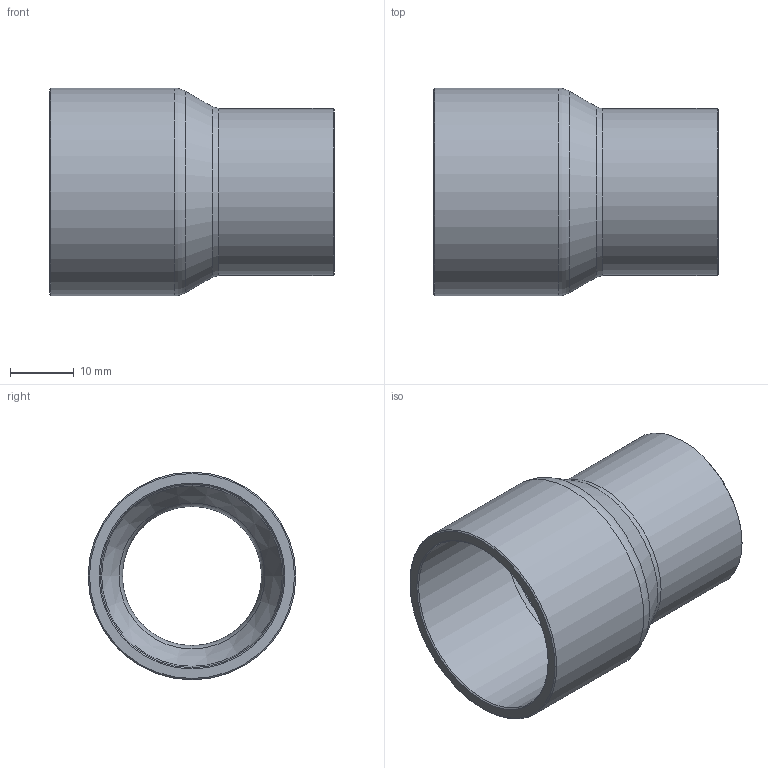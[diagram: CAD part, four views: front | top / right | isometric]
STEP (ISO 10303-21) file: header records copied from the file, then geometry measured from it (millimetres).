
FILE_DESCRIPTION((''),'2;1');
FILE_NAME('G:\SANHA-Ternat\Technik\Management\Bouwmaten + markeringen\z-maattekeningen 3D\29000s\2924011878_3d.stp','2017-08-04T10:39:27',('vdvijverd'),(''),'Autodesk Inventor 2009','Autodesk Inventor 2009','');
FILE_SCHEMA(('AUTOMOTIVE_DESIGN { 1 0 10303 214 1 1 1 1 }'));
Length unit declared in the file: millimetre
Products named in the file (1): 2924011878_3d
Bounding box: 44.6 x 32.52 x 32.52 mm (x, y, z)
Volume: 7581.3 mm3; surface area: 8137.6 mm2
Topology: 1 solids, 1 shells, 17 faces, 32 edges, 17 vertices
Faces by surface type: cone 6, cylinder 4, bspline 3, plane 2, torus 2
Full cylindrical faces by diameter (mm): 22.375 x1, 26.175 x1, 28.725 x1, 32.525 x1
Entity records: 494 total; most frequent: CARTESIAN_POINT 184, DIRECTION 64, ORIENTED_EDGE 34, EDGE_LOOP 34, AXIS2_PLACEMENT_3D 32, VERTEX_POINT 17, CIRCLE 17, EDGE_CURVE 17
